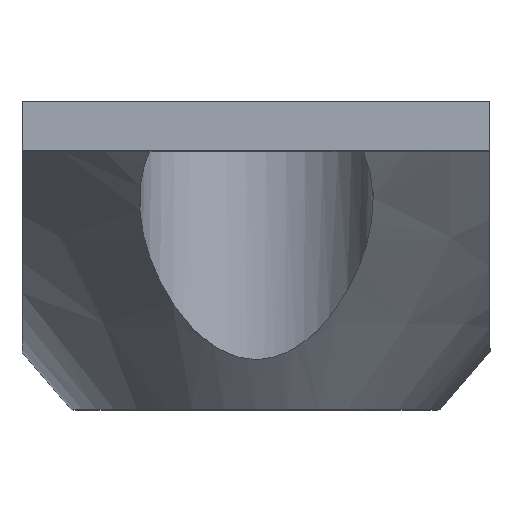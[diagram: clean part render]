
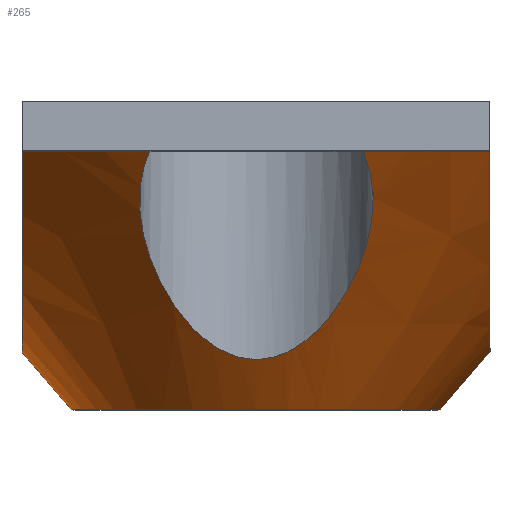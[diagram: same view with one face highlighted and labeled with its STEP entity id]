
A CAD part, top view. The second image highlights one B-rep face of the part: STEP entity #265.
In plain terms, the highlighted conical face has half-angle 40.601 degrees and reference radius 12 mm.
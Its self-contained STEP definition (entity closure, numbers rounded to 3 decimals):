
#19=(
BOUNDED_CURVE()
B_SPLINE_CURVE(2,(#480,#481,#482),.UNSPECIFIED.,.F.,.F.)
B_SPLINE_CURVE_WITH_KNOTS((3,3),(1.376,4.417),
 .UNSPECIFIED.)
CURVE()
GEOMETRIC_REPRESENTATION_ITEM()
RATIONAL_B_SPLINE_CURVE((1.692,2.316,2.316))
REPRESENTATION_ITEM('')
);
#20=(
BOUNDED_CURVE()
B_SPLINE_CURVE(2,(#486,#487,#488),.UNSPECIFIED.,.F.,.F.)
B_SPLINE_CURVE_WITH_KNOTS((3,3),(4.417,7.457),
 .UNSPECIFIED.)
CURVE()
GEOMETRIC_REPRESENTATION_ITEM()
RATIONAL_B_SPLINE_CURVE((2.316,2.316,1.692))
REPRESENTATION_ITEM('')
);
#21=(
BOUNDED_CURVE()
B_SPLINE_CURVE(2,(#489,#490,#491),.UNSPECIFIED.,.F.,.F.)
B_SPLINE_CURVE_WITH_KNOTS((3,3),(1.381,7.446),
 .UNSPECIFIED.)
CURVE()
GEOMETRIC_REPRESENTATION_ITEM()
RATIONAL_B_SPLINE_CURVE((1.691,2.928,1.691))
REPRESENTATION_ITEM('')
);
#22=CONICAL_SURFACE('',#292,12.,0.709);
#37=B_SPLINE_CURVE_WITH_KNOTS('',3,(#394,#395,#396,#397,#398,#399,#400,
#401,#402,#403,#404,#405,#406,#407,#408,#409,#410,#411,#412,#413,#414,#415,
#416,#417,#418,#419,#420),.UNSPECIFIED.,.F.,.F.,(4,2,3,2,2,2,2,2,2,2,2,
2,4),(-0.505,-0.313,0.,0.228,0.456,
0.591,0.726,0.86,0.995,1.223,
1.451,1.764,1.956),.UNSPECIFIED.);
#38=B_SPLINE_CURVE_WITH_KNOTS('',3,(#431,#432,#433,#434,#435,#436,#437,
#438,#439,#440,#441,#442,#443,#444,#445,#446,#447,#448,#449,#450,#451,#452,
#453,#454,#455,#456,#457),.UNSPECIFIED.,.F.,.F.,(4,2,3,2,2,2,2,2,2,2,2,
2,4),(-0.505,-0.313,0.,0.228,0.456,
0.591,0.726,0.86,0.995,
1.223,1.451,1.764,1.956),
 .UNSPECIFIED.);
#45=FACE_OUTER_BOUND('',#61,.T.);
#61=EDGE_LOOP('',(#208,#209,#210,#211,#212,#213,#214,#215,#216,#217,#218,
#219));
#81=LINE('',#484,#99);
#99=VECTOR('',#350,12.);
#115=CIRCLE('',#287,16.5);
#116=CIRCLE('',#288,16.5);
#117=CIRCLE('',#290,16.5);
#118=CIRCLE('',#291,16.5);
#119=CIRCLE('',#293,7.5);
#124=VERTEX_POINT('',#391);
#125=VERTEX_POINT('',#392);
#128=VERTEX_POINT('',#428);
#129=VERTEX_POINT('',#429);
#130=VERTEX_POINT('',#459);
#133=VERTEX_POINT('',#465);
#134=VERTEX_POINT('',#469);
#137=VERTEX_POINT('',#475);
#138=VERTEX_POINT('',#479);
#139=VERTEX_POINT('',#483);
#150=EDGE_CURVE('',#124,#125,#37,.T.);
#155=EDGE_CURVE('',#128,#129,#38,.T.);
#156=EDGE_CURVE('',#130,#124,#115,.T.);
#160=EDGE_CURVE('',#125,#133,#116,.T.);
#161=EDGE_CURVE('',#134,#128,#117,.T.);
#165=EDGE_CURVE('',#129,#137,#118,.T.);
#166=EDGE_CURVE('',#138,#133,#19,.F.);
#167=EDGE_CURVE('',#138,#139,#81,.T.);
#168=EDGE_CURVE('',#139,#139,#119,.T.);
#169=EDGE_CURVE('',#134,#138,#20,.F.);
#170=EDGE_CURVE('',#130,#137,#21,.F.);
#208=ORIENTED_EDGE('',*,*,#150,.T.);
#209=ORIENTED_EDGE('',*,*,#160,.T.);
#210=ORIENTED_EDGE('',*,*,#166,.F.);
#211=ORIENTED_EDGE('',*,*,#167,.T.);
#212=ORIENTED_EDGE('',*,*,#168,.F.);
#213=ORIENTED_EDGE('',*,*,#167,.F.);
#214=ORIENTED_EDGE('',*,*,#169,.F.);
#215=ORIENTED_EDGE('',*,*,#161,.T.);
#216=ORIENTED_EDGE('',*,*,#155,.T.);
#217=ORIENTED_EDGE('',*,*,#165,.T.);
#218=ORIENTED_EDGE('',*,*,#170,.F.);
#219=ORIENTED_EDGE('',*,*,#156,.T.);
#265=ADVANCED_FACE('',(#45),#22,.T.);
#287=AXIS2_PLACEMENT_3D('',#460,#332,#333);
#288=AXIS2_PLACEMENT_3D('',#467,#337,#338);
#290=AXIS2_PLACEMENT_3D('',#470,#341,#342);
#291=AXIS2_PLACEMENT_3D('',#477,#346,#347);
#292=AXIS2_PLACEMENT_3D('',#478,#348,#349);
#293=AXIS2_PLACEMENT_3D('',#485,#351,#352);
#332=DIRECTION('center_axis',(0.,-1.,0.));
#333=DIRECTION('ref_axis',(1.,0.,0.));
#337=DIRECTION('center_axis',(0.,-1.,0.));
#338=DIRECTION('ref_axis',(1.,0.,0.));
#341=DIRECTION('center_axis',(0.,-1.,0.));
#342=DIRECTION('ref_axis',(1.,0.,0.));
#346=DIRECTION('center_axis',(0.,-1.,0.));
#347=DIRECTION('ref_axis',(1.,0.,0.));
#348=DIRECTION('center_axis',(0.,1.,0.));
#349=DIRECTION('ref_axis',(1.,0.,0.));
#350=DIRECTION('',(0.651,-0.759,0.));
#351=DIRECTION('center_axis',(0.,-1.,0.));
#352=DIRECTION('ref_axis',(1.,0.,0.));
#391=CARTESIAN_POINT('',(18.882,-0.993,244.827));
#392=CARTESIAN_POINT('',(10.19,-0.993,244.847));
#394=CARTESIAN_POINT('Ctrl Pts',(18.882,-0.993,244.827));
#395=CARTESIAN_POINT('Ctrl Pts',(19.08,-1.439,244.376));
#396=CARTESIAN_POINT('Ctrl Pts',(19.202,-1.922,243.904));
#397=CARTESIAN_POINT('Ctrl Pts',(19.336,-3.232,242.678));
#398=CARTESIAN_POINT('Ctrl Pts',(19.228,-4.087,241.935));
#399=CARTESIAN_POINT('Ctrl Pts',(18.996,-4.878,241.298));
#400=CARTESIAN_POINT('Ctrl Pts',(18.827,-5.456,240.832));
#401=CARTESIAN_POINT('Ctrl Pts',(18.567,-6.086,240.353));
#402=CARTESIAN_POINT('Ctrl Pts',(17.866,-7.301,239.491));
#403=CARTESIAN_POINT('Ctrl Pts',(17.427,-7.885,239.108));
#404=CARTESIAN_POINT('Ctrl Pts',(16.614,-8.645,238.636));
#405=CARTESIAN_POINT('Ctrl Pts',(16.245,-8.926,238.469));
#406=CARTESIAN_POINT('Ctrl Pts',(15.425,-9.331,238.235));
#407=CARTESIAN_POINT('Ctrl Pts',(14.97,-9.451,238.168));
#408=CARTESIAN_POINT('Ctrl Pts',(14.072,-9.451,238.17));
#409=CARTESIAN_POINT('Ctrl Pts',(13.618,-9.331,238.239));
#410=CARTESIAN_POINT('Ctrl Pts',(12.798,-8.926,238.477));
#411=CARTESIAN_POINT('Ctrl Pts',(12.43,-8.645,238.645));
#412=CARTESIAN_POINT('Ctrl Pts',(11.619,-7.885,239.121));
#413=CARTESIAN_POINT('Ctrl Pts',(11.182,-7.301,239.506));
#414=CARTESIAN_POINT('Ctrl Pts',(10.485,-6.086,240.372));
#415=CARTESIAN_POINT('Ctrl Pts',(10.227,-5.456,240.852));
#416=CARTESIAN_POINT('Ctrl Pts',(9.831,-4.087,241.956));
#417=CARTESIAN_POINT('Ctrl Pts',(9.726,-3.232,242.7));
#418=CARTESIAN_POINT('Ctrl Pts',(9.866,-1.922,243.925));
#419=CARTESIAN_POINT('Ctrl Pts',(9.99,-1.439,244.396));
#420=CARTESIAN_POINT('Ctrl Pts',(10.19,-0.993,244.847));
#428=CARTESIAN_POINT('',(10.19,-0.993,212.992));
#429=CARTESIAN_POINT('',(18.882,-0.993,213.012));
#431=CARTESIAN_POINT('Ctrl Pts',(10.19,-0.993,212.992));
#432=CARTESIAN_POINT('Ctrl Pts',(9.99,-1.439,213.443));
#433=CARTESIAN_POINT('Ctrl Pts',(9.866,-1.922,213.914));
#434=CARTESIAN_POINT('Ctrl Pts',(9.726,-3.232,215.139));
#435=CARTESIAN_POINT('Ctrl Pts',(9.831,-4.087,215.883));
#436=CARTESIAN_POINT('Ctrl Pts',(10.06,-4.878,216.521));
#437=CARTESIAN_POINT('Ctrl Pts',(10.227,-5.456,216.987));
#438=CARTESIAN_POINT('Ctrl Pts',(10.485,-6.086,217.467));
#439=CARTESIAN_POINT('Ctrl Pts',(11.182,-7.301,218.333));
#440=CARTESIAN_POINT('Ctrl Pts',(11.619,-7.885,218.718));
#441=CARTESIAN_POINT('Ctrl Pts',(12.43,-8.645,219.194));
#442=CARTESIAN_POINT('Ctrl Pts',(12.798,-8.926,219.362));
#443=CARTESIAN_POINT('Ctrl Pts',(13.618,-9.331,219.6));
#444=CARTESIAN_POINT('Ctrl Pts',(14.072,-9.451,219.668));
#445=CARTESIAN_POINT('Ctrl Pts',(14.97,-9.451,219.67));
#446=CARTESIAN_POINT('Ctrl Pts',(15.425,-9.331,219.604));
#447=CARTESIAN_POINT('Ctrl Pts',(16.245,-8.926,219.37));
#448=CARTESIAN_POINT('Ctrl Pts',(16.614,-8.645,219.203));
#449=CARTESIAN_POINT('Ctrl Pts',(17.427,-7.885,218.731));
#450=CARTESIAN_POINT('Ctrl Pts',(17.866,-7.301,218.348));
#451=CARTESIAN_POINT('Ctrl Pts',(18.567,-6.086,217.486));
#452=CARTESIAN_POINT('Ctrl Pts',(18.827,-5.456,217.006));
#453=CARTESIAN_POINT('Ctrl Pts',(19.228,-4.087,215.904));
#454=CARTESIAN_POINT('Ctrl Pts',(19.336,-3.232,215.161));
#455=CARTESIAN_POINT('Ctrl Pts',(19.202,-1.922,213.935));
#456=CARTESIAN_POINT('Ctrl Pts',(19.08,-1.439,213.463));
#457=CARTESIAN_POINT('Ctrl Pts',(18.882,-0.993,213.012));
#459=CARTESIAN_POINT('',(24.032,-0.993,242.388));
#460=CARTESIAN_POINT('Origin',(14.5,-0.993,228.919));
#465=CARTESIAN_POINT('',(5.,-0.993,242.41));
#467=CARTESIAN_POINT('Origin',(14.5,-0.993,228.919));
#469=CARTESIAN_POINT('',(5.,-0.993,215.429));
#470=CARTESIAN_POINT('Origin',(14.5,-0.993,228.919));
#475=CARTESIAN_POINT('',(24.032,-0.993,215.451));
#477=CARTESIAN_POINT('Origin',(14.5,-0.993,228.919));
#478=CARTESIAN_POINT('Origin',(14.5,-6.243,228.919));
#479=CARTESIAN_POINT('',(5.,-9.159,228.919));
#480=CARTESIAN_POINT('Ctrl Pts',(5.,-0.993,242.41));
#481=CARTESIAN_POINT('Ctrl Pts',(5.,-9.159,233.849));
#482=CARTESIAN_POINT('Ctrl Pts',(5.,-9.159,228.919));
#483=CARTESIAN_POINT('',(7.,-11.493,228.919));
#484=CARTESIAN_POINT('',(2.5,-6.243,228.919));
#485=CARTESIAN_POINT('Origin',(14.5,-11.493,228.919));
#486=CARTESIAN_POINT('Ctrl Pts',(5.,-9.159,228.919));
#487=CARTESIAN_POINT('Ctrl Pts',(5.,-9.159,223.99));
#488=CARTESIAN_POINT('Ctrl Pts',(5.,-0.993,215.429));
#489=CARTESIAN_POINT('Ctrl Pts',(24.032,-0.993,215.451));
#490=CARTESIAN_POINT('Ctrl Pts',(24.032,-13.819,228.919));
#491=CARTESIAN_POINT('Ctrl Pts',(24.032,-0.993,242.388));
